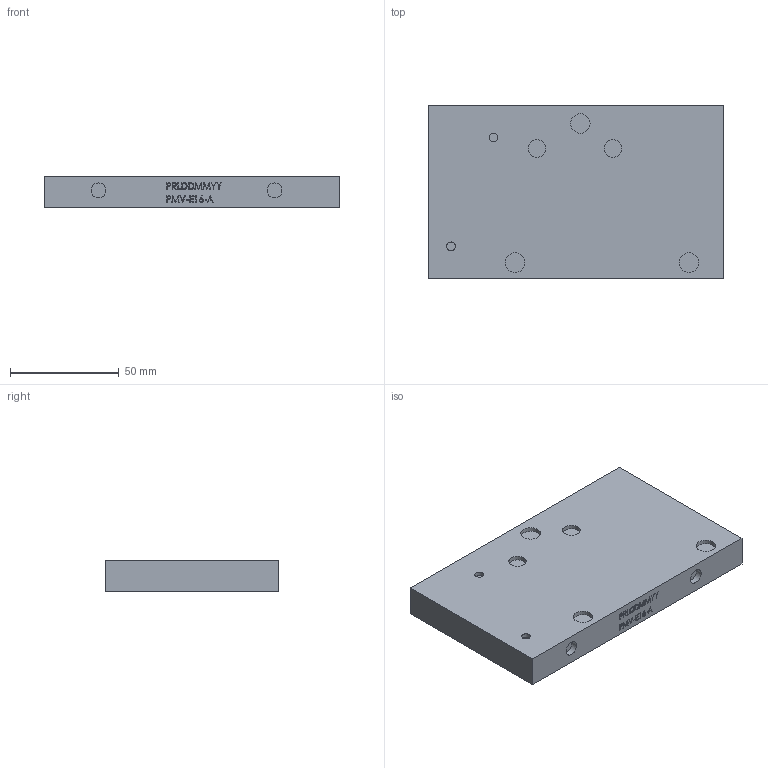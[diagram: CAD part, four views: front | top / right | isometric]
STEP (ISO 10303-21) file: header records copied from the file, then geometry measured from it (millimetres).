
FILE_DESCRIPTION (( 'STEP AP214' ), '1' );
FILE_NAME ('0302011.STEP', '2022-06-22T13:39:04', ( '' ), ( '' ), 'SwSTEP 2.0', 'SolidWorks 2020', '' );
FILE_SCHEMA (( 'AUTOMOTIVE_DESIGN' ));
Length unit declared in the file: millimetre
Products named in the file (3): 0289417_002; 0302011; 0283782_008
Assembly tree (2 placements, depth 2):
  0302011
    0289417_002
    0283782_008
Bounding box: 136 x 80 x 14.5 mm (x, y, z)
Volume: 156432.8 mm3; surface area: 28965.1 mm2
Topology: 3 solids, 3 shells, 279 faces, 682 edges, 450 vertices
Faces by surface type: plane 200, bspline 40, cone 21, cylinder 18
Full cylindrical faces by diameter (mm): 0.6 x1, 1.1 x1, 3.5 x1, 3.767 x1, 4 x3, 6.8 x3, 8 x2, 9 x6
Entity records: 10221 total; most frequent: CARTESIAN_POINT 3905, ORIENTED_EDGE 1274, DIRECTION 1099, EDGE_CURVE 637, LINE 499, VECTOR 499, VERTEX_POINT 444, EDGE_LOOP 361
